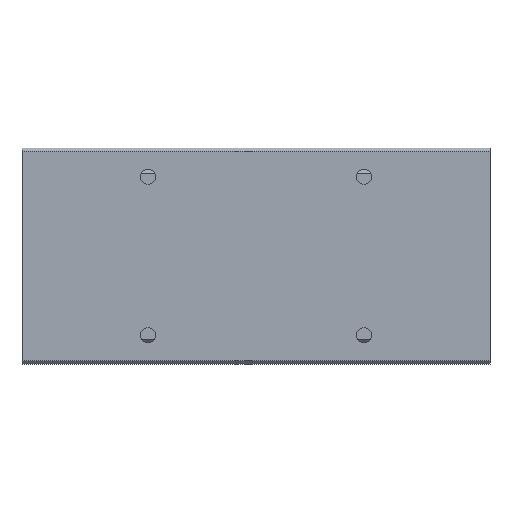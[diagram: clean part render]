
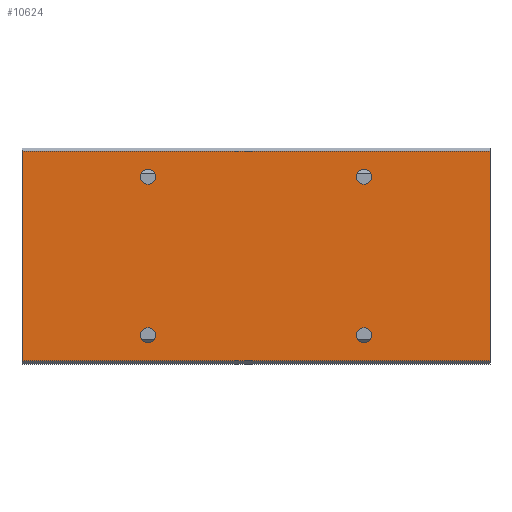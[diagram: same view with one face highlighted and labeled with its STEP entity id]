
A CAD part, front view. The second image highlights one B-rep face of the part: STEP entity #10624.
In plain terms, the highlighted planar face has unit normal (0, -1, 0).
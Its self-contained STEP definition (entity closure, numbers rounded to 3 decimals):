
#389=CIRCLE('',#11256,1.057);
#390=CIRCLE('',#11261,1.057);
#397=CIRCLE('',#11274,1.057);
#398=CIRCLE('',#11279,1.057);
#1533=ORIENTED_EDGE('',*,*,#4367,.F.);
#1534=ORIENTED_EDGE('',*,*,#4363,.F.);
#1535=ORIENTED_EDGE('',*,*,#4347,.F.);
#1536=ORIENTED_EDGE('',*,*,#4343,.F.);
#1537=ORIENTED_EDGE('',*,*,#4320,.T.);
#1538=ORIENTED_EDGE('',*,*,#4761,.F.);
#1539=ORIENTED_EDGE('',*,*,#4303,.F.);
#1540=ORIENTED_EDGE('',*,*,#4760,.T.);
#4303=EDGE_CURVE('',#5927,#5928,#7029,.T.);
#4320=EDGE_CURVE('',#5945,#5944,#7046,.T.);
#4343=EDGE_CURVE('',#5963,#5963,#389,.T.);
#4347=EDGE_CURVE('',#5966,#5966,#390,.T.);
#4363=EDGE_CURVE('',#5977,#5977,#397,.T.);
#4367=EDGE_CURVE('',#5980,#5980,#398,.T.);
#4760=EDGE_CURVE('',#5927,#5945,#7210,.T.);
#4761=EDGE_CURVE('',#5928,#5944,#7211,.T.);
#5927=VERTEX_POINT('',#16052);
#5928=VERTEX_POINT('',#16054);
#5944=VERTEX_POINT('',#16087);
#5945=VERTEX_POINT('',#16089);
#5963=VERTEX_POINT('',#16133);
#5966=VERTEX_POINT('',#16141);
#5977=VERTEX_POINT('',#16171);
#5980=VERTEX_POINT('',#16179);
#7029=LINE('',#16053,#7989);
#7046=LINE('',#16088,#8006);
#7210=LINE('',#16963,#8170);
#7211=LINE('',#16965,#8171);
#7989=VECTOR('',#12538,1000.);
#8006=VECTOR('',#12557,1000.);
#8170=VECTOR('',#13295,1000.);
#8171=VECTOR('',#13298,1000.);
#8979=EDGE_LOOP('',(#1533));
#8980=EDGE_LOOP('',(#1534));
#8981=EDGE_LOOP('',(#1535));
#8982=EDGE_LOOP('',(#1536));
#8983=EDGE_LOOP('',(#1537,#1538,#1539,#1540));
#9685=FACE_BOUND('',#8979,.T.);
#9686=FACE_BOUND('',#8980,.T.);
#9687=FACE_BOUND('',#8981,.T.);
#9688=FACE_BOUND('',#8982,.T.);
#9689=FACE_BOUND('',#8983,.T.);
#10354=PLANE('',#11538);
#10624=ADVANCED_FACE('',(#9685,#9686,#9687,#9688,#9689),#10354,.F.);
#11256=AXIS2_PLACEMENT_3D('',#16132,#12588,#12589);
#11261=AXIS2_PLACEMENT_3D('',#16140,#12598,#12599);
#11274=AXIS2_PLACEMENT_3D('',#16170,#12630,#12631);
#11279=AXIS2_PLACEMENT_3D('',#16178,#12640,#12641);
#11538=AXIS2_PLACEMENT_3D('',#16964,#13296,#13297);
#12538=DIRECTION('',(0.,0.,-1.));
#12557=DIRECTION('',(0.,0.,-1.));
#12588=DIRECTION('',(0.,-1.,0.));
#12589=DIRECTION('',(0.,0.,-1.));
#12598=DIRECTION('',(0.,-1.,0.));
#12599=DIRECTION('',(0.,0.,-1.));
#12630=DIRECTION('',(0.,-1.,0.));
#12631=DIRECTION('',(0.,0.,-1.));
#12640=DIRECTION('',(0.,-1.,0.));
#12641=DIRECTION('',(0.,0.,-1.));
#13295=DIRECTION('',(-1.,0.,0.));
#13296=DIRECTION('',(0.,1.,0.));
#13297=DIRECTION('',(0.,0.,1.));
#13298=DIRECTION('',(-1.,0.,0.));
#16052=CARTESIAN_POINT('',(65.,0.,14.55));
#16053=CARTESIAN_POINT('',(65.,0.,14.55));
#16054=CARTESIAN_POINT('',(65.,0.,-14.55));
#16087=CARTESIAN_POINT('',(0.,0.,-14.55));
#16088=CARTESIAN_POINT('',(0.,0.,14.55));
#16089=CARTESIAN_POINT('',(0.,0.,14.55));
#16132=CARTESIAN_POINT('',(17.5,0.,-11.));
#16133=CARTESIAN_POINT('',(17.5,0.,-12.057));
#16140=CARTESIAN_POINT('',(47.5,0.,-11.));
#16141=CARTESIAN_POINT('',(47.5,0.,-12.057));
#16170=CARTESIAN_POINT('',(17.5,0.,11.));
#16171=CARTESIAN_POINT('',(17.5,0.,9.944));
#16178=CARTESIAN_POINT('',(47.5,0.,11.));
#16179=CARTESIAN_POINT('',(47.5,0.,9.944));
#16963=CARTESIAN_POINT('',(65.,0.,14.55));
#16964=CARTESIAN_POINT('',(65.,0.,14.55));
#16965=CARTESIAN_POINT('',(65.,0.,-14.55));
